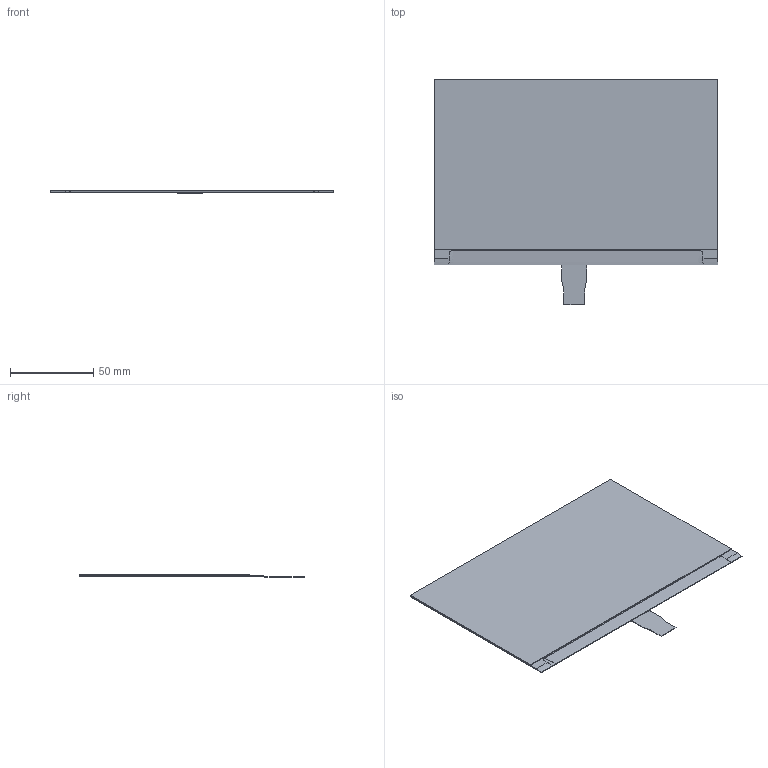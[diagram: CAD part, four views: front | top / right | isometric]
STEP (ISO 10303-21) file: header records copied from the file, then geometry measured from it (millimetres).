
FILE_DESCRIPTION (( 'STEP AP214' ), '1' );
FILE_NAME ('CFAP800480A10750.STEP', '2026-09-26T17:04:28', ( '' ), ( '' ), 'SwSTEP 2.0', 'SolidWorks 2026', '' );
FILE_SCHEMA (( 'AUTOMOTIVE_DESIGN' ));
Length unit declared in the file: millimetre
Products named in the file (1): CFAP800480A10750
Bounding box: 170.4 x 135.4 x 1.59 mm (x, y, z)
Volume: 23153.8 mm3; surface area: 74119.1 mm2
Topology: 3 solids, 3 shells, 30 faces, 70 edges, 46 vertices
Faces by surface type: plane 27, bspline 3
Entity records: 1518 total; most frequent: CARTESIAN_POINT 526, ORIENTED_EDGE 140, DIRECTION 112, EDGE_CURVE 70, VECTOR 56, LINE 56, VERTEX_POINT 46, UNCERTAINTY_MEASURE_WITH_UNIT 31
